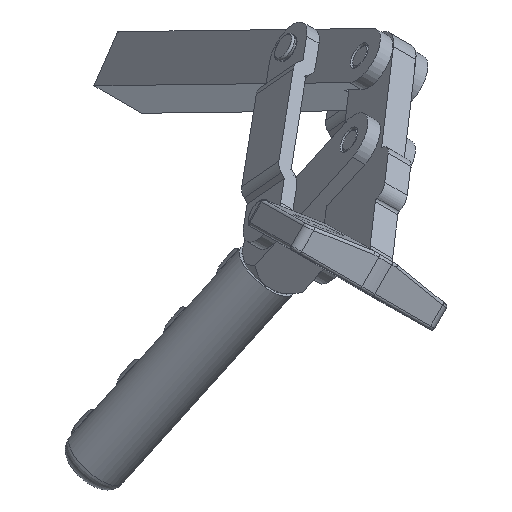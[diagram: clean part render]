
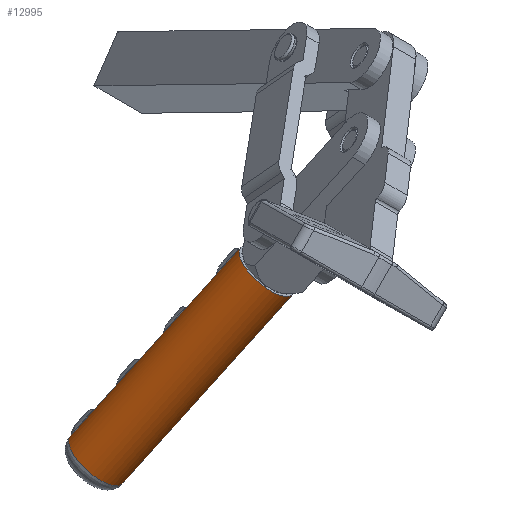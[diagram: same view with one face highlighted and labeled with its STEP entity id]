
A CAD part, left-side view. The second image highlights one B-rep face of the part: STEP entity #12995.
In plain terms, the highlighted cylindrical face has radius 11 mm (diameter 22 mm), a full revolution.
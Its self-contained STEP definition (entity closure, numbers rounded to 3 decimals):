
#365=FACE_BOUND('',#1912,.T.);
#366=FACE_BOUND('',#1913,.T.);
#367=FACE_BOUND('',#1914,.T.);
#875=CYLINDRICAL_SURFACE('',#14055,11.);
#1180=FACE_OUTER_BOUND('',#1911,.T.);
#1911=EDGE_LOOP('',(#9618,#9619,#9620,#9621,#9622,#9623,#9624,#9625,#9626));
#1912=EDGE_LOOP('',(#9627,#9628,#9629,#9630));
#1913=EDGE_LOOP('',(#9631,#9632,#9633,#9634));
#1914=EDGE_LOOP('',(#9635,#9636,#9637,#9638));
#2664=LINE('',#20492,#3741);
#2665=LINE('',#20494,#3742);
#2666=LINE('',#20498,#3743);
#2667=LINE('',#20503,#3744);
#2668=LINE('',#20506,#3745);
#2669=LINE('',#20511,#3746);
#2670=LINE('',#20514,#3747);
#2671=LINE('',#20519,#3748);
#2672=LINE('',#20522,#3749);
#3741=VECTOR('',#16103,1000.);
#3742=VECTOR('',#16104,11.);
#3743=VECTOR('',#16109,1000.);
#3744=VECTOR('',#16112,1000.);
#3745=VECTOR('',#16115,1000.);
#3746=VECTOR('',#16118,1000.);
#3747=VECTOR('',#16121,1000.);
#3748=VECTOR('',#16124,1000.);
#3749=VECTOR('',#16127,1000.);
#4826=CIRCLE('',#14052,11.);
#4827=CIRCLE('',#14053,11.);
#4829=CIRCLE('',#14056,11.);
#4830=CIRCLE('',#14057,11.);
#4831=CIRCLE('',#14058,11.);
#4832=CIRCLE('',#14059,11.);
#4833=CIRCLE('',#14060,11.);
#4834=CIRCLE('',#14061,11.);
#4835=CIRCLE('',#14062,11.);
#4836=CIRCLE('',#14063,11.);
#4837=CIRCLE('',#14064,11.);
#5662=VERTEX_POINT('',#20481);
#5663=VERTEX_POINT('',#20483);
#5664=VERTEX_POINT('',#20485);
#5665=VERTEX_POINT('',#20489);
#5666=VERTEX_POINT('',#20490);
#5667=VERTEX_POINT('',#20493);
#5668=VERTEX_POINT('',#20495);
#5669=VERTEX_POINT('',#20499);
#5670=VERTEX_POINT('',#20500);
#5671=VERTEX_POINT('',#20502);
#5672=VERTEX_POINT('',#20504);
#5673=VERTEX_POINT('',#20507);
#5674=VERTEX_POINT('',#20508);
#5675=VERTEX_POINT('',#20510);
#5676=VERTEX_POINT('',#20512);
#5677=VERTEX_POINT('',#20515);
#5678=VERTEX_POINT('',#20516);
#5679=VERTEX_POINT('',#20518);
#5680=VERTEX_POINT('',#20520);
#7159=EDGE_CURVE('',#5663,#5662,#4826,.T.);
#7160=EDGE_CURVE('',#5664,#5663,#4827,.T.);
#7162=EDGE_CURVE('',#5665,#5666,#4829,.T.);
#7163=EDGE_CURVE('',#5666,#5664,#2664,.T.);
#7164=EDGE_CURVE('',#5663,#5667,#2665,.T.);
#7165=EDGE_CURVE('',#5668,#5667,#4830,.T.);
#7166=EDGE_CURVE('',#5667,#5668,#4831,.T.);
#7167=EDGE_CURVE('',#5665,#5662,#2666,.T.);
#7168=EDGE_CURVE('',#5669,#5670,#4832,.T.);
#7169=EDGE_CURVE('',#5670,#5671,#2667,.T.);
#7170=EDGE_CURVE('',#5672,#5671,#4833,.T.);
#7171=EDGE_CURVE('',#5669,#5672,#2668,.T.);
#7172=EDGE_CURVE('',#5673,#5674,#4834,.T.);
#7173=EDGE_CURVE('',#5674,#5675,#2669,.T.);
#7174=EDGE_CURVE('',#5676,#5675,#4835,.T.);
#7175=EDGE_CURVE('',#5673,#5676,#2670,.T.);
#7176=EDGE_CURVE('',#5677,#5678,#4836,.T.);
#7177=EDGE_CURVE('',#5678,#5679,#2671,.T.);
#7178=EDGE_CURVE('',#5680,#5679,#4837,.T.);
#7179=EDGE_CURVE('',#5677,#5680,#2672,.T.);
#9618=ORIENTED_EDGE('',*,*,#7162,.T.);
#9619=ORIENTED_EDGE('',*,*,#7163,.T.);
#9620=ORIENTED_EDGE('',*,*,#7160,.T.);
#9621=ORIENTED_EDGE('',*,*,#7164,.T.);
#9622=ORIENTED_EDGE('',*,*,#7165,.F.);
#9623=ORIENTED_EDGE('',*,*,#7166,.F.);
#9624=ORIENTED_EDGE('',*,*,#7164,.F.);
#9625=ORIENTED_EDGE('',*,*,#7159,.T.);
#9626=ORIENTED_EDGE('',*,*,#7167,.F.);
#9627=ORIENTED_EDGE('',*,*,#7168,.T.);
#9628=ORIENTED_EDGE('',*,*,#7169,.T.);
#9629=ORIENTED_EDGE('',*,*,#7170,.F.);
#9630=ORIENTED_EDGE('',*,*,#7171,.F.);
#9631=ORIENTED_EDGE('',*,*,#7172,.T.);
#9632=ORIENTED_EDGE('',*,*,#7173,.T.);
#9633=ORIENTED_EDGE('',*,*,#7174,.F.);
#9634=ORIENTED_EDGE('',*,*,#7175,.F.);
#9635=ORIENTED_EDGE('',*,*,#7176,.T.);
#9636=ORIENTED_EDGE('',*,*,#7177,.T.);
#9637=ORIENTED_EDGE('',*,*,#7178,.F.);
#9638=ORIENTED_EDGE('',*,*,#7179,.F.);
#12995=ADVANCED_FACE('',(#1180,#365,#366,#367),#875,.T.);
#14052=AXIS2_PLACEMENT_3D('',#20484,#16093,#16094);
#14053=AXIS2_PLACEMENT_3D('',#20486,#16095,#16096);
#14055=AXIS2_PLACEMENT_3D('',#20488,#16099,#16100);
#14056=AXIS2_PLACEMENT_3D('',#20491,#16101,#16102);
#14057=AXIS2_PLACEMENT_3D('',#20496,#16105,#16106);
#14058=AXIS2_PLACEMENT_3D('',#20497,#16107,#16108);
#14059=AXIS2_PLACEMENT_3D('',#20501,#16110,#16111);
#14060=AXIS2_PLACEMENT_3D('',#20505,#16113,#16114);
#14061=AXIS2_PLACEMENT_3D('',#20509,#16116,#16117);
#14062=AXIS2_PLACEMENT_3D('',#20513,#16119,#16120);
#14063=AXIS2_PLACEMENT_3D('',#20517,#16122,#16123);
#14064=AXIS2_PLACEMENT_3D('',#20521,#16125,#16126);
#16093=DIRECTION('center_axis',(0.,0.,1.));
#16094=DIRECTION('ref_axis',(1.,0.,0.));
#16095=DIRECTION('center_axis',(0.,0.,1.));
#16096=DIRECTION('ref_axis',(1.,0.,0.));
#16099=DIRECTION('center_axis',(0.,0.,-1.));
#16100=DIRECTION('ref_axis',(-1.,0.,0.));
#16101=DIRECTION('center_axis',(0.,0.,1.));
#16102=DIRECTION('ref_axis',(1.,0.,0.));
#16103=DIRECTION('',(0.,0.,-1.));
#16104=DIRECTION('',(0.,0.,1.));
#16105=DIRECTION('center_axis',(0.,0.,1.));
#16106=DIRECTION('ref_axis',(1.,0.,0.));
#16107=DIRECTION('center_axis',(0.,0.,1.));
#16108=DIRECTION('ref_axis',(1.,0.,0.));
#16109=DIRECTION('',(0.,0.,-1.));
#16110=DIRECTION('center_axis',(0.,0.,1.));
#16111=DIRECTION('ref_axis',(1.,0.,0.));
#16112=DIRECTION('',(0.,0.,-1.));
#16113=DIRECTION('center_axis',(0.,0.,1.));
#16114=DIRECTION('ref_axis',(1.,0.,0.));
#16115=DIRECTION('',(0.,0.,-1.));
#16116=DIRECTION('center_axis',(0.,0.,1.));
#16117=DIRECTION('ref_axis',(1.,0.,0.));
#16118=DIRECTION('',(0.,0.,-1.));
#16119=DIRECTION('center_axis',(0.,0.,1.));
#16120=DIRECTION('ref_axis',(1.,0.,0.));
#16121=DIRECTION('',(0.,0.,-1.));
#16122=DIRECTION('center_axis',(0.,0.,1.));
#16123=DIRECTION('ref_axis',(1.,0.,0.));
#16124=DIRECTION('',(0.,0.,-1.));
#16125=DIRECTION('center_axis',(0.,0.,1.));
#16126=DIRECTION('ref_axis',(1.,0.,0.));
#16127=DIRECTION('',(0.,0.,-1.));
#20481=CARTESIAN_POINT('',(-7.22,8.299,5.));
#20483=CARTESIAN_POINT('',(11.,0.,5.));
#20484=CARTESIAN_POINT('Origin',(0.,0.,5.));
#20485=CARTESIAN_POINT('',(-7.22,-8.299,5.));
#20486=CARTESIAN_POINT('Origin',(0.,0.,5.));
#20488=CARTESIAN_POINT('Origin',(0.,0.,92.));
#20489=CARTESIAN_POINT('',(-7.22,8.299,18.247));
#20490=CARTESIAN_POINT('',(-7.22,-8.299,18.247));
#20491=CARTESIAN_POINT('Origin',(0.,0.,18.247));
#20492=CARTESIAN_POINT('',(-7.22,-8.299,128.239));
#20493=CARTESIAN_POINT('',(11.,0.,92.));
#20494=CARTESIAN_POINT('',(11.,0.,92.));
#20495=CARTESIAN_POINT('',(-11.,0.,92.));
#20496=CARTESIAN_POINT('Origin',(0.,0.,92.));
#20497=CARTESIAN_POINT('Origin',(0.,0.,92.));
#20498=CARTESIAN_POINT('',(-7.22,8.299,128.239));
#20499=CARTESIAN_POINT('',(-7.22,8.299,91.062));
#20500=CARTESIAN_POINT('',(-7.22,-8.299,91.062));
#20501=CARTESIAN_POINT('Origin',(0.,0.,91.062));
#20502=CARTESIAN_POINT('',(-7.22,-8.299,74.938));
#20503=CARTESIAN_POINT('',(-7.22,-8.299,128.239));
#20504=CARTESIAN_POINT('',(-7.22,8.299,74.938));
#20505=CARTESIAN_POINT('Origin',(0.,0.,74.938));
#20506=CARTESIAN_POINT('',(-7.22,8.299,128.239));
#20507=CARTESIAN_POINT('',(-7.22,8.299,64.062));
#20508=CARTESIAN_POINT('',(-7.22,-8.299,64.062));
#20509=CARTESIAN_POINT('Origin',(0.,0.,64.062));
#20510=CARTESIAN_POINT('',(-7.22,-8.299,47.938));
#20511=CARTESIAN_POINT('',(-7.22,-8.299,128.239));
#20512=CARTESIAN_POINT('',(-7.22,8.299,47.938));
#20513=CARTESIAN_POINT('Origin',(0.,0.,47.938));
#20514=CARTESIAN_POINT('',(-7.22,8.299,128.239));
#20515=CARTESIAN_POINT('',(-7.22,8.299,40.062));
#20516=CARTESIAN_POINT('',(-7.22,-8.299,40.062));
#20517=CARTESIAN_POINT('Origin',(0.,0.,40.062));
#20518=CARTESIAN_POINT('',(-7.22,-8.299,22.78));
#20519=CARTESIAN_POINT('',(-7.22,-8.299,128.239));
#20520=CARTESIAN_POINT('',(-7.22,8.299,22.78));
#20521=CARTESIAN_POINT('Origin',(0.,0.,22.78));
#20522=CARTESIAN_POINT('',(-7.22,8.299,128.239));
